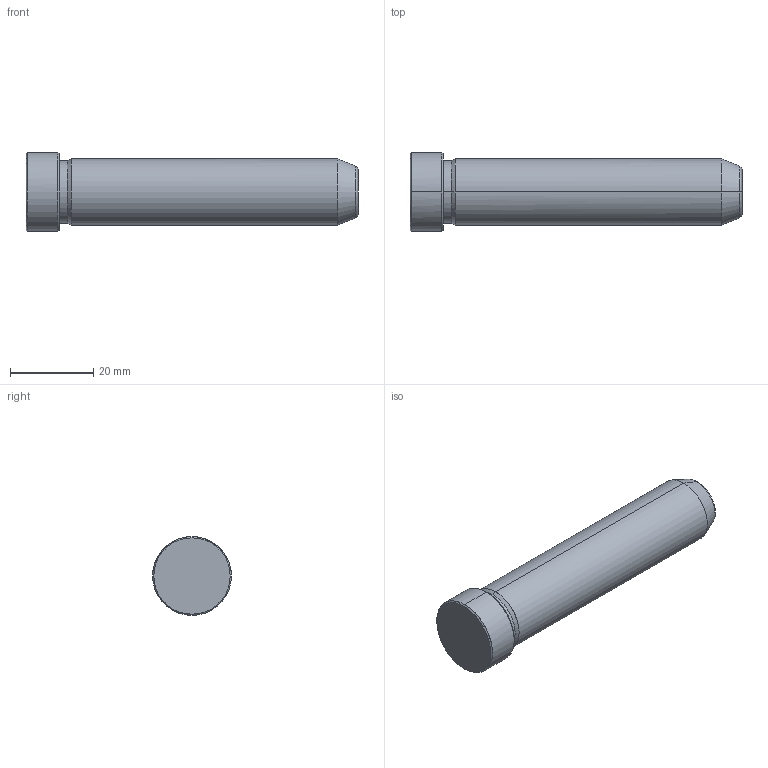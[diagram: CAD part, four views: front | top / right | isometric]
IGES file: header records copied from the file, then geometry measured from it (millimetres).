
Start section: START RECORD GO HERE.
Global section: file name: 549-16X80.igs; native system: DASSAULT SYSTEMES CATIA V5 R20 - www.3ds.com; preprocessor: CATIA Version 5 Release 20 ; author: Utente; organization: NB04-ASUS; date: 20211211.103500; units: millimetre
Bounding box: 80 x 19 x 19 mm (x, y, z)
Surface area: 4556.2 mm2 (no closed solid volume)
Topology: 0 solids, 0 shells, 19 faces, 112 edges, 112 vertices
Faces by surface type: revolution 16, plane 3
